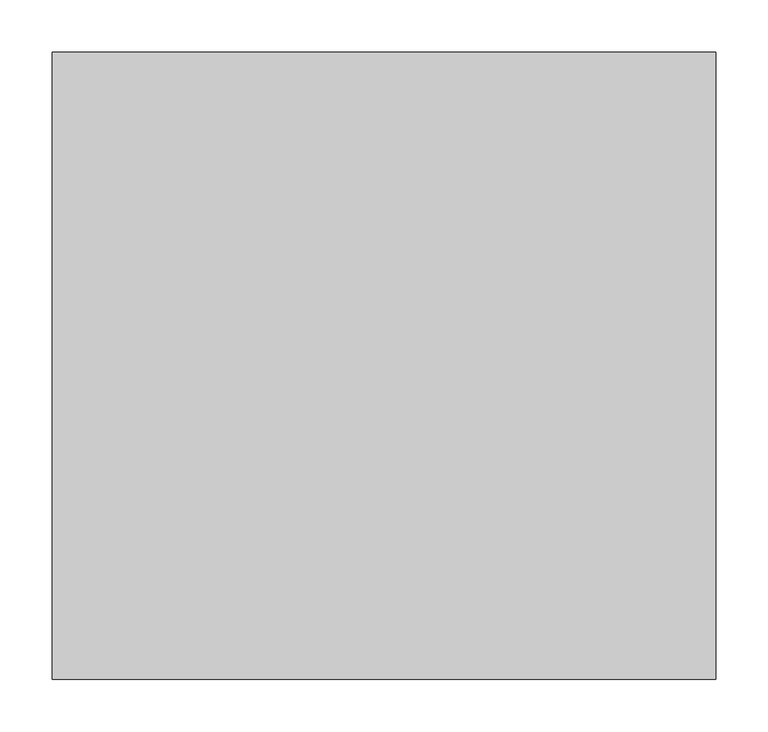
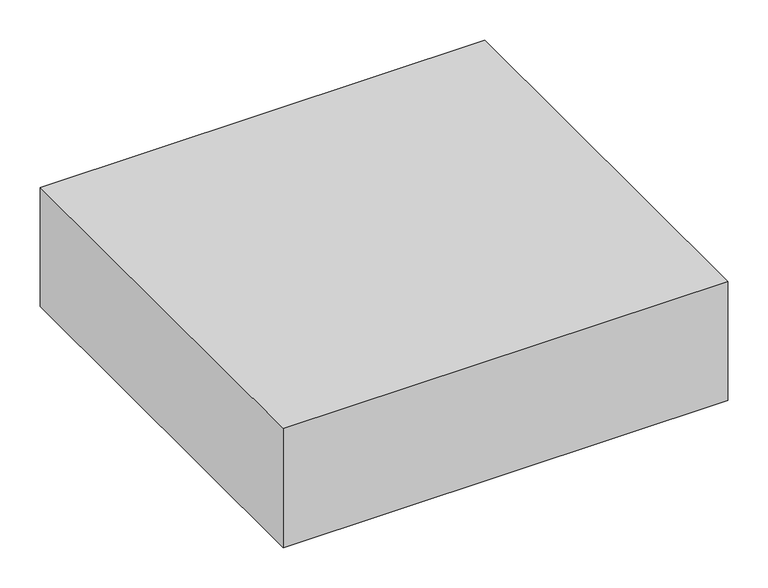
"""IFC4 building model written with IfcOpenShell, lengths in millimetres: flow terminal geometry, Bancada Linear com Cuba : Profundidade 60cm."""

from ifc_helpers import new_model, si_unit, origin, place, context, project, spatial, faceted_brep, source, transform, mapped, element, save


def flow_terminal_25407447(model_context):
    return source(origin(), model_context, "Body", "Brep", [
        faceted_brep([(317.1717536, 300.0, 800.0), (-317.1717536, 300.0, 800.0), (-317.1717536, -300.0, 800.0), (317.1717536, -300.0, 800.0), (317.1717536, 300.0, 620.0), (287.1717536, 300.0, 620.0), (287.1717536, 300.0, 770.0), (-287.1717536, 300.0, 770.0), (-287.1717536, 300.0, 620.0), (-317.1717536, 300.0, 620.0), (-317.1717536, -300.0, 620.0), (317.1717536, -300.0, 620.0), (287.1717536, -270.0, 770.0), (-287.1717536, -270.0, 770.0), (-287.1717536, -270.0, 620.0), (287.1717536, -270.0, 620.0)], [[[0, 1, 2, 3]], [[1, 0, 4, 5, 6, 7, 8, 9]], [[2, 1, 9, 10]], [[3, 2, 10, 11]], [[0, 3, 11, 4]], [[6, 12, 13, 7]], [[7, 13, 14, 8]], [[13, 12, 15, 14]], [[12, 6, 5, 15]], [[5, 4, 11, 10, 9, 8, 14, 15]]]),
    ])


if __name__ == "__main__":
    model = new_model("IFC4")
    model_context = context("Model", 3, world=origin())
    ifc_project = project(units=[si_unit("LENGTHUNIT", "METRE", prefix="MILLI")], contexts=[model_context])
    site = spatial("IfcSite", under=ifc_project)
    building = spatial("IfcBuilding", under=site)
    placement = place(None, origin())
    flow_terminal_shape = flow_terminal_25407447(model_context)
    element("IfcFlowTerminal", 1, ObjectType="Bancada Linear com Cuba : Profundidade 60cm", at=placement, inside=building, context=model_context, shape_type="MappedRepresentation", body=[
        mapped(flow_terminal_shape, transform((0.0, 0.0, 0.0), x_axis=(1.0, 0.0, 0.0), y_axis=(0.0, 1.0, 0.0), z_axis=(0.0, 0.0, 1.0))),
    ])
    save(model, "model.ifc")
